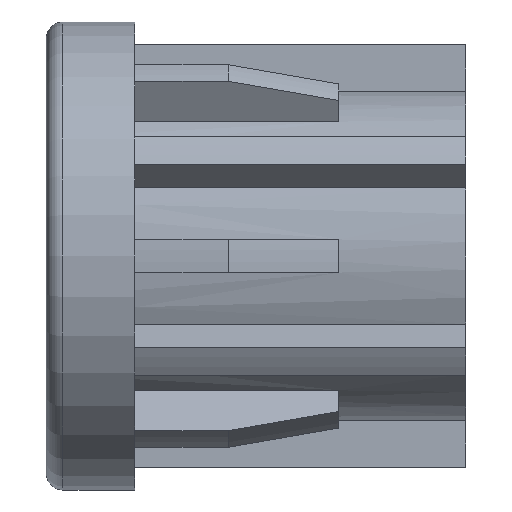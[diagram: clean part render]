
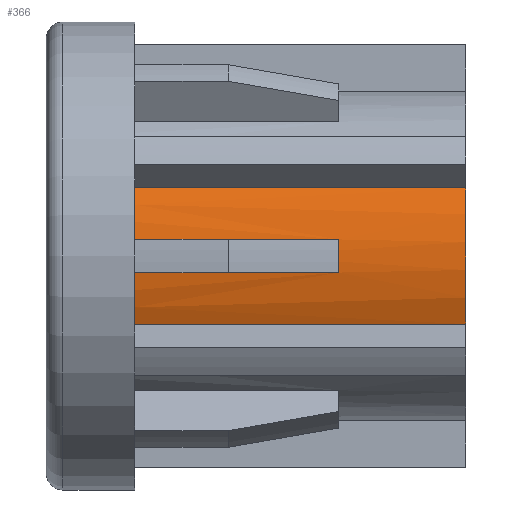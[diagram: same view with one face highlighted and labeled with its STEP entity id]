
A CAD part, left-side view. The second image highlights one B-rep face of the part: STEP entity #366.
In plain terms, the highlighted cylindrical face has radius 15 mm (diameter 30 mm), a partial arc.
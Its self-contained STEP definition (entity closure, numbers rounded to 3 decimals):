
#3 = VECTOR ( 'NONE', #1816, 1000. ) ;
#20 = DIRECTION ( 'NONE',  ( 0., 0., 1. ) ) ;
#71 = CYLINDRICAL_SURFACE ( 'NONE', #2135, 15. ) ;
#95 = VERTEX_POINT ( 'NONE', #913 ) ;
#123 = CARTESIAN_POINT ( 'NONE',  ( 0., -8., 0. ) ) ;
#222 = DIRECTION ( 'NONE',  ( 0., -1., 0. ) ) ;
#239 = AXIS2_PLACEMENT_3D ( 'NONE', #123, #2406, #331 ) ;
#277 = VERTEX_POINT ( 'NONE', #1920 ) ;
#293 = VERTEX_POINT ( 'NONE', #395 ) ;
#296 = CARTESIAN_POINT ( 'NONE',  ( 0., -26.5, 0. ) ) ;
#302 = VERTEX_POINT ( 'NONE', #612 ) ;
#305 = LINE ( 'NONE', #1063, #3 ) ;
#319 = DIRECTION ( 'NONE',  ( 0., -1., 0. ) ) ;
#331 = DIRECTION ( 'NONE',  ( 0., 0., 1. ) ) ;
#366 = ADVANCED_FACE ( 'NONE', ( #1183 ), #71, .T. ) ;
#395 = CARTESIAN_POINT ( 'NONE',  ( -14.925, -8., 1.5 ) ) ;
#407 = CARTESIAN_POINT ( 'NONE',  ( -14.925, -8., -1.5 ) ) ;
#429 = DIRECTION ( 'NONE',  ( 0., -1., 0. ) ) ;
#441 = CIRCLE ( 'NONE', #239, 15. ) ;
#445 = DIRECTION ( 'NONE',  ( 0., 0., 1. ) ) ;
#523 = EDGE_CURVE ( 'NONE', #95, #730, #1454, .T. ) ;
#585 = VERTEX_POINT ( 'NONE', #407 ) ;
#611 = LINE ( 'NONE', #1756, #1947 ) ;
#612 = CARTESIAN_POINT ( 'NONE',  ( -14.925, -26.5, -1.5 ) ) ;
#614 = ORIENTED_EDGE ( 'NONE', *, *, #1064, .F. ) ;
#632 = CARTESIAN_POINT ( 'NONE',  ( 0., 0., 0. ) ) ;
#641 = AXIS2_PLACEMENT_3D ( 'NONE', #1916, #1899, #20 ) ;
#709 = DIRECTION ( 'NONE',  ( 0., -1., 0. ) ) ;
#730 = VERTEX_POINT ( 'NONE', #990 ) ;
#768 = VECTOR ( 'NONE', #429, 1000. ) ;
#847 = AXIS2_PLACEMENT_3D ( 'NONE', #296, #709, #1805 ) ;
#863 = EDGE_CURVE ( 'NONE', #293, #95, #441, .T. ) ;
#913 = CARTESIAN_POINT ( 'NONE',  ( -13.675, -8., 6.163 ) ) ;
#935 = EDGE_CURVE ( 'NONE', #585, #302, #305, .T. ) ;
#956 = CIRCLE ( 'NONE', #641, 15. ) ;
#990 = CARTESIAN_POINT ( 'NONE',  ( -13.675, -38., 6.163 ) ) ;
#1011 = ORIENTED_EDGE ( 'NONE', *, *, #863, .F. ) ;
#1063 = CARTESIAN_POINT ( 'NONE',  ( -14.925, 0.002, -1.5 ) ) ;
#1064 = EDGE_CURVE ( 'NONE', #277, #585, #956, .T. ) ;
#1099 = ORIENTED_EDGE ( 'NONE', *, *, #1955, .T. ) ;
#1183 = FACE_OUTER_BOUND ( 'NONE', #2003, .T. ) ;
#1204 = CARTESIAN_POINT ( 'NONE',  ( 0., -38., 0. ) ) ;
#1238 = VERTEX_POINT ( 'NONE', #1991 ) ;
#1300 = CARTESIAN_POINT ( 'NONE',  ( -13.675, 0.002, 6.163 ) ) ;
#1348 = CARTESIAN_POINT ( 'NONE',  ( -14.925, 0.002, 1.5 ) ) ;
#1360 = CIRCLE ( 'NONE', #847, 15. ) ;
#1454 = LINE ( 'NONE', #1300, #1780 ) ;
#1481 = CIRCLE ( 'NONE', #1834, 15. ) ;
#1495 = ORIENTED_EDGE ( 'NONE', *, *, #523, .F. ) ;
#1606 = ORIENTED_EDGE ( 'NONE', *, *, #935, .F. ) ;
#1756 = CARTESIAN_POINT ( 'NONE',  ( -13.675, 0.002, -6.163 ) ) ;
#1765 = LINE ( 'NONE', #1348, #768 ) ;
#1780 = VECTOR ( 'NONE', #319, 1000. ) ;
#1805 = DIRECTION ( 'NONE',  ( 0., 0., -1. ) ) ;
#1806 = EDGE_CURVE ( 'NONE', #277, #1238, #611, .T. ) ;
#1816 = DIRECTION ( 'NONE',  ( 0., -1., 0. ) ) ;
#1834 = AXIS2_PLACEMENT_3D ( 'NONE', #1204, #1966, #445 ) ;
#1899 = DIRECTION ( 'NONE',  ( 0., 1., 0. ) ) ;
#1916 = CARTESIAN_POINT ( 'NONE',  ( 0., -8., 0. ) ) ;
#1920 = CARTESIAN_POINT ( 'NONE',  ( -13.675, -8., -6.163 ) ) ;
#1947 = VECTOR ( 'NONE', #222, 1000. ) ;
#1955 = EDGE_CURVE ( 'NONE', #2043, #302, #1360, .T. ) ;
#1966 = DIRECTION ( 'NONE',  ( 0., 1., 0. ) ) ;
#1991 = CARTESIAN_POINT ( 'NONE',  ( -13.675, -38., -6.163 ) ) ;
#2003 = EDGE_LOOP ( 'NONE', ( #1606, #614, #2212, #2158, #1495, #1011, #2014, #1099 ) ) ;
#2014 = ORIENTED_EDGE ( 'NONE', *, *, #2201, .T. ) ;
#2043 = VERTEX_POINT ( 'NONE', #2251 ) ;
#2135 = AXIS2_PLACEMENT_3D ( 'NONE', #632, #2358, #2143 ) ;
#2143 = DIRECTION ( 'NONE',  ( 0., 0., 1. ) ) ;
#2158 = ORIENTED_EDGE ( 'NONE', *, *, #2182, .T. ) ;
#2182 = EDGE_CURVE ( 'NONE', #1238, #730, #1481, .T. ) ;
#2201 = EDGE_CURVE ( 'NONE', #293, #2043, #1765, .T. ) ;
#2212 = ORIENTED_EDGE ( 'NONE', *, *, #1806, .T. ) ;
#2251 = CARTESIAN_POINT ( 'NONE',  ( -14.925, -26.5, 1.5 ) ) ;
#2358 = DIRECTION ( 'NONE',  ( 0., 1., 0. ) ) ;
#2406 = DIRECTION ( 'NONE',  ( 0., 1., 0. ) ) ;
